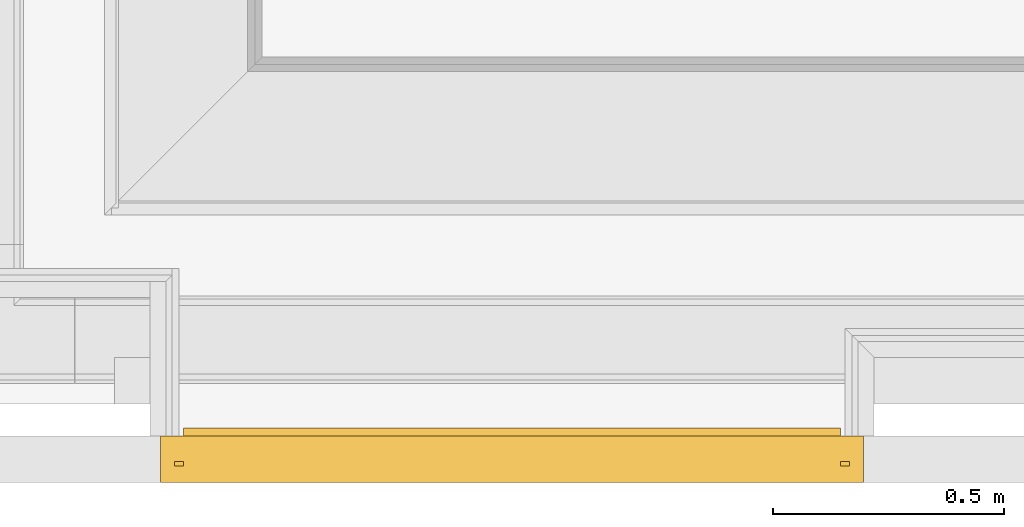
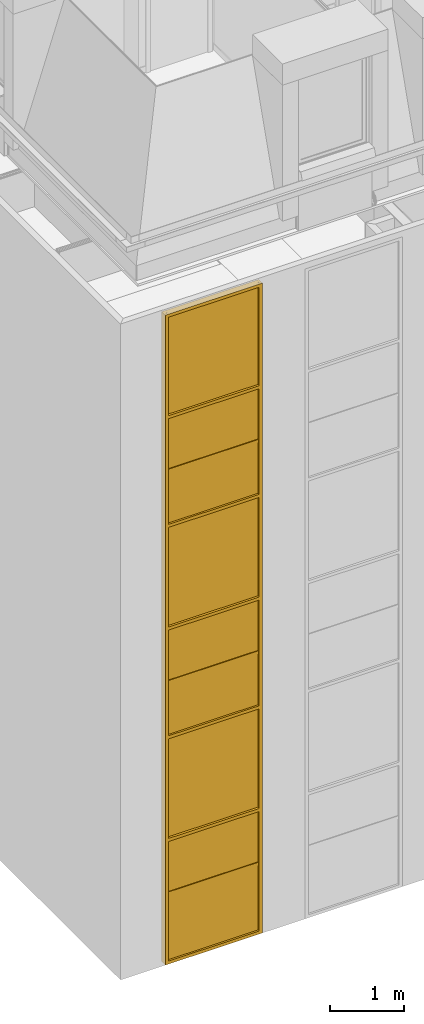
# One storey, part 91 of 169: 1 curtain wall.
"""IFC2X3 building model written with IfcOpenShell, lengths in metres."""

from ifc_helpers import new_model, entity, si_unit, converted_unit, derived_unit, money_unit, direction, frame, origin_with_axes, place, context, subcontext, project, spatial, faceted_brep, material, type_object, element, save


model = new_model("IFC2X3")

# Units and contexts
model_context = context("Model", 3, precision=1e-05, world=origin_with_axes(), true_north=direction((0.0, 1.0)))
body_context = subcontext(model_context, "Body", "Model", "MODEL_VIEW", scale=1.0)
ifc_project = project(units=[si_unit("LENGTHUNIT", "METRE"), si_unit("AREAUNIT", "SQUARE_METRE"), si_unit("VOLUMEUNIT", "CUBIC_METRE"), si_unit("ABSORBEDDOSEUNIT", "GRAY"), si_unit("AMOUNTOFSUBSTANCEUNIT", "MOLE"), si_unit("DOSEEQUIVALENTUNIT", "SIEVERT"), si_unit("ELECTRICCAPACITANCEUNIT", "FARAD"), si_unit("ELECTRICCHARGEUNIT", "COULOMB"), si_unit("ELECTRICCONDUCTANCEUNIT", "SIEMENS"), si_unit("ELECTRICCURRENTUNIT", "AMPERE"), si_unit("ELECTRICRESISTANCEUNIT", "OHM"), si_unit("ELECTRICVOLTAGEUNIT", "VOLT"), si_unit("ENERGYUNIT", "JOULE"), si_unit("FORCEUNIT", "NEWTON"), si_unit("FREQUENCYUNIT", "HERTZ"), si_unit("ILLUMINANCEUNIT", "LUX"), si_unit("INDUCTANCEUNIT", "HENRY"), si_unit("LUMINOUSFLUXUNIT", "LUMEN"), si_unit("LUMINOUSINTENSITYUNIT", "CANDELA"), si_unit("MAGNETICFLUXDENSITYUNIT", "TESLA"), si_unit("MAGNETICFLUXUNIT", "WEBER"), si_unit("MASSUNIT", "GRAM"), converted_unit("PLANEANGLEUNIT", "degree", entity("IfcReal", 0.0174532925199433), si_unit("PLANEANGLEUNIT", "RADIAN"), dimensions=[0, 0, 0, 0, 0, 0, 0]), si_unit("POWERUNIT", "WATT"), si_unit("PRESSUREUNIT", "PASCAL"), si_unit("RADIOACTIVITYUNIT", "BECQUEREL"), si_unit("SOLIDANGLEUNIT", "STERADIAN"), si_unit("THERMODYNAMICTEMPERATUREUNIT", "KELVIN"), si_unit("TIMEUNIT", "SECOND"), derived_unit("ACCELERATIONUNIT", [(si_unit("LENGTHUNIT", "METRE"), 1), (si_unit("TIMEUNIT", "SECOND"), -2)]), derived_unit("ANGULARVELOCITYUNIT", [(converted_unit("PLANEANGLEUNIT", "degree", entity("IfcReal", 0.0174532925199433), si_unit("PLANEANGLEUNIT", "RADIAN"), dimensions=[0, 0, 0, 0, 0, 0, 0]), 1), (si_unit("TIMEUNIT", "SECOND"), -1)]), derived_unit("CURVATUREUNIT", [(converted_unit("PLANEANGLEUNIT", "degree", entity("IfcReal", 0.0174532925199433), si_unit("PLANEANGLEUNIT", "RADIAN"), dimensions=[0, 0, 0, 0, 0, 0, 0]), 1), (si_unit("LENGTHUNIT", "METRE"), -1)]), derived_unit("DYNAMICVISCOSITYUNIT", [(si_unit("PRESSUREUNIT", "PASCAL"), 1), (si_unit("TIMEUNIT", "SECOND"), 1)]), derived_unit("HEATFLUXDENSITYUNIT", [(si_unit("POWERUNIT", "WATT"), 1), (si_unit("LENGTHUNIT", "METRE"), -2)]), derived_unit("HEATINGVALUEUNIT", [(si_unit("ENERGYUNIT", "JOULE"), 1), (si_unit("MASSUNIT", "GRAM"), -1)]), derived_unit("INTEGERCOUNTRATEUNIT", [(si_unit("TIMEUNIT", "SECOND"), -1)]), derived_unit("IONCONCENTRATIONUNIT", [(si_unit("MASSUNIT", "GRAM"), 1), (si_unit("VOLUMEUNIT", "CUBIC_METRE"), -1)]), derived_unit("ISOTHERMALMOISTURECAPACITYUNIT", [(si_unit("VOLUMEUNIT", "CUBIC_METRE"), 1), (si_unit("MASSUNIT", "GRAM"), -1)]), derived_unit("KINEMATICVISCOSITYUNIT", [(si_unit("AREAUNIT", "SQUARE_METRE"), 1), (si_unit("TIMEUNIT", "SECOND"), -1)]), derived_unit("LINEARFORCEUNIT", [(si_unit("FORCEUNIT", "NEWTON"), 1), (si_unit("LENGTHUNIT", "METRE"), -1)]), derived_unit("LINEARMOMENTUNIT", [(si_unit("FORCEUNIT", "NEWTON"), 1), (si_unit("LENGTHUNIT", "METRE"), -1)]), derived_unit("LINEARSTIFFNESSUNIT", [(si_unit("FORCEUNIT", "NEWTON"), 1), (si_unit("LENGTHUNIT", "METRE"), -1)]), derived_unit("LINEARVELOCITYUNIT", [(si_unit("LENGTHUNIT", "METRE"), 1), (si_unit("TIMEUNIT", "SECOND"), -1)]), derived_unit("LUMINOUSINTENSITYDISTRIBUTIONUNIT", [(si_unit("LUMINOUSINTENSITYUNIT", "CANDELA"), 1), (si_unit("LUMINOUSFLUXUNIT", "LUMEN"), -1)]), derived_unit("MASSDENSITYUNIT", [(si_unit("MASSUNIT", "GRAM"), 1), (si_unit("VOLUMEUNIT", "CUBIC_METRE"), -1)]), derived_unit("MASSFLOWRATEUNIT", [(si_unit("MASSUNIT", "GRAM"), 1), (si_unit("TIMEUNIT", "SECOND"), -1)]), derived_unit("MASSPERLENGTHUNIT", [(si_unit("MASSUNIT", "GRAM"), 1), (si_unit("LENGTHUNIT", "METRE"), -1)]), derived_unit("MODULUSOFELASTICITYUNIT", [(si_unit("FORCEUNIT", "NEWTON"), 1), (si_unit("AREAUNIT", "SQUARE_METRE"), -1)]), derived_unit("MODULUSOFLINEARSUBGRADEREACTIONUNIT", [(si_unit("FORCEUNIT", "NEWTON"), 1), (si_unit("LENGTHUNIT", "METRE"), -2)]), derived_unit("MODULUSOFROTATIONALSUBGRADEREACTIONUNIT", [(si_unit("FORCEUNIT", "NEWTON"), 1), (si_unit("LENGTHUNIT", "METRE"), 1)]), derived_unit("MODULUSOFSUBGRADEREACTIONUNIT", [(si_unit("FORCEUNIT", "NEWTON"), 1), (si_unit("VOLUMEUNIT", "CUBIC_METRE"), -1)]), derived_unit("MOISTUREDIFFUSIVITYUNIT", [(si_unit("VOLUMEUNIT", "CUBIC_METRE"), 1), (si_unit("TIMEUNIT", "SECOND"), -1)]), derived_unit("MOLECULARWEIGHTUNIT", [(si_unit("MASSUNIT", "GRAM"), 1), (si_unit("AMOUNTOFSUBSTANCEUNIT", "MOLE"), -1)]), derived_unit("PLANARFORCEUNIT", [(si_unit("FORCEUNIT", "NEWTON"), 1), (si_unit("LENGTHUNIT", "METRE"), -2)]), derived_unit("ROTATIONALFREQUENCYUNIT", [(si_unit("TIMEUNIT", "SECOND"), -1)]), derived_unit("ROTATIONALMASSUNIT", [(si_unit("MASSUNIT", "GRAM"), 1), (si_unit("LENGTHUNIT", "METRE"), 2)]), derived_unit("ROTATIONALSTIFFNESSUNIT", [(si_unit("FORCEUNIT", "NEWTON"), 1), (si_unit("LENGTHUNIT", "METRE"), 1), (converted_unit("PLANEANGLEUNIT", "degree", entity("IfcReal", 0.0174532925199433), si_unit("PLANEANGLEUNIT", "RADIAN"), dimensions=[0, 0, 0, 0, 0, 0, 0]), -1)]), derived_unit("SECTIONAREAINTEGRALUNIT", [(si_unit("LENGTHUNIT", "METRE"), 5)]), derived_unit("SECTIONMODULUSUNIT", [(si_unit("LENGTHUNIT", "METRE"), 3)]), derived_unit("SHEARMODULUSUNIT", [(si_unit("FORCEUNIT", "NEWTON"), 1), (si_unit("AREAUNIT", "SQUARE_METRE"), -1)]), derived_unit("SOUNDPOWERUNIT", [(si_unit("ENERGYUNIT", "JOULE"), 1), (si_unit("TIMEUNIT", "SECOND"), -1)]), derived_unit("SPECIFICHEATCAPACITYUNIT", [(si_unit("FORCEUNIT", "NEWTON"), 1), (si_unit("MASSUNIT", "GRAM"), -1), (si_unit("THERMODYNAMICTEMPERATUREUNIT", "KELVIN"), -1)]), derived_unit("TEMPERATUREGRADIENTUNIT", [(si_unit("THERMODYNAMICTEMPERATUREUNIT", "KELVIN"), 1), (si_unit("LENGTHUNIT", "METRE"), -1)]), derived_unit("THERMALADMITTANCEUNIT", [(si_unit("POWERUNIT", "WATT"), 1), (si_unit("AREAUNIT", "SQUARE_METRE"), -1), (si_unit("THERMODYNAMICTEMPERATUREUNIT", "KELVIN"), -1)]), derived_unit("THERMALCONDUCTANCEUNIT", [(si_unit("POWERUNIT", "WATT"), 1), (si_unit("LENGTHUNIT", "METRE"), -1), (si_unit("THERMODYNAMICTEMPERATUREUNIT", "KELVIN"), -1)]), derived_unit("THERMALEXPANSIONCOEFFICIENTUNIT", [(si_unit("THERMODYNAMICTEMPERATUREUNIT", "KELVIN"), -1)]), derived_unit("THERMALRESISTANCEUNIT", [(si_unit("AREAUNIT", "SQUARE_METRE"), 1), (si_unit("POWERUNIT", "WATT"), -1)]), derived_unit("THERMALTRANSMITTANCEUNIT", [(si_unit("POWERUNIT", "WATT"), 1), (si_unit("AREAUNIT", "SQUARE_METRE"), -1), (si_unit("THERMODYNAMICTEMPERATUREUNIT", "KELVIN"), -1)]), derived_unit("TORQUEUNIT", [(si_unit("FORCEUNIT", "NEWTON"), 1), (si_unit("LENGTHUNIT", "METRE"), 1)]), derived_unit("VAPORPERMEABILITYUNIT", [(si_unit("MASSUNIT", "GRAM"), 1), (si_unit("TIMEUNIT", "SECOND"), -1)]), derived_unit("VOLUMETRICFLOWRATEUNIT", [(si_unit("VOLUMEUNIT", "CUBIC_METRE"), 1), (si_unit("TIMEUNIT", "SECOND"), -1)]), derived_unit("WARPINGCONSTANTUNIT", [(si_unit("LENGTHUNIT", "METRE"), 6)]), derived_unit("WARPINGMOMENTUNIT", [(si_unit("FORCEUNIT", "NEWTON"), 1), (si_unit("LENGTHUNIT", "METRE"), 2)]), money_unit("GBP")], contexts=[model_context])

# Site, building, storey
site_placement = place(None, origin_with_axes())
site = spatial("IfcSite", under=ifc_project, at=site_placement, Name="Site", CompositionType="ELEMENT")
building_placement = place(site_placement, origin_with_axes())
building = spatial("IfcBuilding", under=site, at=building_placement, Name="Building01", CompositionType="ELEMENT")
storey_placement = place(building_placement, frame((0.0, 0.0, 5.15), z_axis=(0.0, 0.0, 1.0), x_axis=(1.0, 0.0, 0.0)))
storey = spatial("IfcBuildingStorey", under=building, at=storey_placement, Name="1F", CompositionType="ELEMENT", Elevation=5.15)

# Curtain wall
ifc_material = material(Name="A-CurtainWall_Frame")
curtain_wall_type = type_object("IfcCurtainWallType", Name="Pattern - Maximum Spacing", PredefinedType="NOTDEFINED")
curtain_wall_placement = place(storey_placement, frame((0.0, 0.0, -5.15), z_axis=(0.0, 0.0, 1.0), x_axis=(1.0, 0.0, 0.0)))
element("IfcCurtainWall", 1, at=curtain_wall_placement, inside=storey, type_object=curtain_wall_type, material=ifc_material, Name="16", ObjectType="Pattern - Maximum Spacing", context=body_context, shape_type="Brep", body=[
    faceted_brep([(0.73, 0.05, 4.0), (0.73, 0.03, 4.0), (0.73, 0.03, 5.118945), (0.73, 0.05, 5.118945), (2.19, 0.05, 4.0), (2.19, 0.03, 4.0), (2.19, 0.05, 5.118945), (2.19, 0.03, 5.118945)], [[[0, 1, 2, 3]], [[4, 5, 1, 0]], [[6, 7, 5, 4]], [[3, 2, 7, 6]], [[1, 5, 7, 2]], [[3, 6, 4, 0]]]),
    faceted_brep([(0.75, 0.045, 3.97), (0.73, 0.045, 3.97), (0.73, 0.035, 3.97), (0.75, 0.035, 3.97), (0.75, 0.0, 3.97), (0.7, 0.0, 3.97), (0.7, 0.1, 3.97), (0.75, 0.1, 3.97), (0.75, 0.1, 5.123945), (0.75, 0.045, 5.123945), (0.73, 0.045, 5.123945), (0.73, 0.035, 5.123945), (0.75, 0.035, 5.123945), (0.75, 0.0, 5.123945), (0.7, 0.0, 5.123945), (0.7, 0.1, 5.123945)], [[[0, 1, 2, 3, 4, 5, 6, 7]], [[7, 8, 9, 0]], [[0, 9, 10, 1]], [[1, 10, 11, 2]], [[2, 11, 12, 3]], [[3, 12, 13, 4]], [[4, 13, 14, 5]], [[5, 14, 15, 6]], [[6, 15, 8, 7]]]),
    faceted_brep([(2.17, 0.045, 4.0), (2.17, 0.035, 4.0), (2.17, 0.035, 4.02), (2.17, 0.0, 4.02), (2.17, 0.0, 3.97), (2.17, 0.1, 3.97), (2.17, 0.1, 4.02), (2.17, 0.045, 4.02), (0.75, 0.045, 4.02), (0.75, 0.045, 4.0), (0.75, 0.035, 4.0), (0.75, 0.035, 4.02), (0.75, 0.0, 4.02), (0.75, 0.0, 3.97), (0.75, 0.1, 3.97), (0.75, 0.1, 4.02)], [[[0, 1, 2, 3, 4, 5, 6, 7]], [[7, 8, 9, 0]], [[0, 9, 10, 1]], [[1, 10, 11, 2]], [[2, 11, 12, 3]], [[3, 12, 13, 4]], [[4, 13, 14, 5]], [[5, 14, 15, 6]], [[6, 15, 8, 7]], [[8, 15, 14, 13, 12, 11, 10, 9]]]),
    faceted_brep([(2.17, 0.045, 3.97), (2.17, 0.045, 5.123945), (2.17, 0.1, 5.123945), (2.17, 0.1, 3.97), (2.19, 0.045, 3.97), (2.19, 0.045, 5.123945), (2.19, 0.035, 3.97), (2.19, 0.035, 5.123945), (2.17, 0.035, 3.97), (2.17, 0.035, 5.123945), (2.17, 0.0, 3.97), (2.17, 0.0, 5.123945), (2.22, 0.0, 3.97), (2.22, 0.0, 5.123945), (2.22, 0.1, 3.97), (2.22, 0.1, 5.123945)], [[[0, 1, 2, 3]], [[4, 5, 1, 0]], [[6, 7, 5, 4]], [[8, 9, 7, 6]], [[10, 11, 9, 8]], [[12, 13, 11, 10]], [[14, 15, 13, 12]], [[3, 2, 15, 14]], [[14, 12, 10, 8, 6, 4, 0, 3]]]),
    faceted_brep([(0.75, 0.0625, 5.118945), (0.75, 0.0525, 5.118945), (0.75, 0.0525, 5.098945), (0.75, 0.0175, 5.098945), (0.75, 0.0175, 5.148945), (0.75, 0.0525, 5.148945), (0.75, 0.0525, 5.128945), (0.75, 0.0625, 5.128945), (0.75, 0.0625, 5.148945), (0.75, 0.1175, 5.148945), (0.75, 0.1175, 5.098945), (0.75, 0.0625, 5.098945), (2.17, 0.0625, 5.098945), (2.17, 0.0625, 5.118945), (2.17, 0.0525, 5.118945), (2.17, 0.0525, 5.098945), (2.17, 0.0175, 5.098945), (2.17, 0.0175, 5.148945), (2.17, 0.0525, 5.148945), (2.17, 0.0625, 5.128945), (2.17, 0.0625, 5.148945), (2.17, 0.0525, 5.128945), (2.17, 0.1175, 5.098945), (2.17, 0.1175, 5.148945)], [[[0, 1, 2, 3, 4, 5, 6, 7, 8, 9, 10, 11]], [[11, 12, 13, 0]], [[0, 13, 14, 1]], [[1, 14, 15, 2]], [[2, 15, 16, 3]], [[3, 16, 17, 4]], [[4, 17, 18, 5]], [[7, 19, 20, 8]], [[6, 21, 19, 7]], [[5, 18, 21, 6]], [[10, 22, 12, 11]], [[9, 23, 22, 10]], [[8, 20, 23, 9]], [[20, 19, 21, 18, 17, 16, 15, 14, 13, 12, 22, 23]]]),
    faceted_brep([(0.73, 0.05, 5.128945), (0.73, 0.03, 5.128945), (0.73, 0.03, 6.018105), (0.73, 0.05, 6.018105), (2.19, 0.05, 5.128945), (2.19, 0.03, 5.128945), (2.19, 0.05, 6.018105), (2.19, 0.03, 6.018105)], [[[0, 1, 2, 3]], [[4, 5, 1, 0]], [[6, 7, 5, 4]], [[3, 2, 7, 6]], [[1, 5, 7, 2]], [[3, 6, 4, 0]]]),
    faceted_brep([(0.7, 0.1, 6.023105), (0.7, 0.1, 5.123945), (0.7, 0.0, 5.123945), (0.7, 0.0, 6.023105), (0.75, 0.1, 6.023105), (0.75, 0.1, 5.123945), (0.75, 0.045, 6.023105), (0.75, 0.045, 5.123945), (0.73, 0.045, 6.023105), (0.73, 0.045, 5.123945), (0.73, 0.035, 6.023105), (0.73, 0.035, 5.123945), (0.75, 0.035, 6.023105), (0.75, 0.035, 5.123945), (0.75, 0.0, 6.023105), (0.75, 0.0, 5.123945)], [[[0, 1, 2, 3]], [[4, 5, 1, 0]], [[6, 7, 5, 4]], [[8, 9, 7, 6]], [[10, 11, 9, 8]], [[12, 13, 11, 10]], [[14, 15, 13, 12]], [[3, 2, 15, 14]]]),
    faceted_brep([(2.17, 0.045, 5.123945), (2.17, 0.045, 6.023105), (2.17, 0.1, 6.023105), (2.17, 0.1, 5.123945), (2.19, 0.045, 5.123945), (2.19, 0.045, 6.023105), (2.19, 0.035, 5.123945), (2.19, 0.035, 6.023105), (2.17, 0.035, 5.123945), (2.17, 0.035, 6.023105), (2.17, 0.0, 5.123945), (2.17, 0.0, 6.023105), (2.22, 0.0, 5.123945), (2.22, 0.0, 6.023105), (2.22, 0.1, 5.123945), (2.22, 0.1, 6.023105)], [[[0, 1, 2, 3]], [[4, 5, 1, 0]], [[6, 7, 5, 4]], [[8, 9, 7, 6]], [[10, 11, 9, 8]], [[12, 13, 11, 10]], [[14, 15, 13, 12]], [[3, 2, 15, 14]]]),
    faceted_brep([(0.75, 0.045, 6.018105), (0.75, 0.035, 6.018105), (0.75, 0.035, 5.998105), (0.75, 0.0, 5.998105), (0.75, 0.0, 6.048105), (0.75, 0.035, 6.048105), (0.75, 0.035, 6.028105), (0.75, 0.045, 6.028105), (0.75, 0.045, 6.048105), (0.75, 0.1, 6.048105), (0.75, 0.1, 5.998105), (0.75, 0.045, 5.998105), (2.17, 0.045, 5.998105), (2.17, 0.045, 6.018105), (2.17, 0.035, 6.018105), (2.17, 0.035, 5.998105), (2.17, 0.0, 5.998105), (2.17, 0.0, 6.048105), (2.17, 0.035, 6.048105), (2.17, 0.045, 6.028105), (2.17, 0.045, 6.048105), (2.17, 0.035, 6.028105), (2.17, 0.1, 5.998105), (2.17, 0.1, 6.048105)], [[[0, 1, 2, 3, 4, 5, 6, 7, 8, 9, 10, 11]], [[11, 12, 13, 0]], [[0, 13, 14, 1]], [[1, 14, 15, 2]], [[2, 15, 16, 3]], [[3, 16, 17, 4]], [[4, 17, 18, 5]], [[7, 19, 20, 8]], [[6, 21, 19, 7]], [[5, 18, 21, 6]], [[10, 22, 12, 11]], [[9, 23, 22, 10]], [[8, 20, 23, 9]], [[20, 19, 21, 18, 17, 16, 15, 14, 13, 12, 22, 23]]]),
    faceted_brep([(0.73, 0.045, 6.028105), (0.73, 0.035, 6.028105), (0.73, 0.035, 7.716517), (0.73, 0.045, 7.716517), (2.19, 0.045, 6.028105), (2.19, 0.035, 6.028105), (2.19, 0.045, 7.716517), (2.19, 0.035, 7.716517)], [[[0, 1, 2, 3]], [[4, 5, 1, 0]], [[6, 7, 5, 4]], [[3, 2, 7, 6]], [[1, 5, 7, 2]], [[3, 6, 4, 0]]]),
    faceted_brep([(0.7, 0.1, 7.721517), (0.7, 0.1, 6.023105), (0.7, 0.0, 6.023105), (0.7, 0.0, 7.721517), (0.75, 0.1, 7.721517), (0.75, 0.1, 6.023105), (0.75, 0.045, 7.721517), (0.75, 0.045, 6.023105), (0.73, 0.045, 7.721517), (0.73, 0.045, 6.023105), (0.73, 0.035, 7.721517), (0.73, 0.035, 6.023105), (0.75, 0.035, 7.721517), (0.75, 0.035, 6.023105), (0.75, 0.0, 7.721517), (0.75, 0.0, 6.023105)], [[[0, 1, 2, 3]], [[4, 5, 1, 0]], [[6, 7, 5, 4]], [[8, 9, 7, 6]], [[10, 11, 9, 8]], [[12, 13, 11, 10]], [[14, 15, 13, 12]], [[3, 2, 15, 14]]]),
    faceted_brep([(2.17, 0.045, 6.023105), (2.17, 0.045, 7.721517), (2.17, 0.1, 7.721517), (2.17, 0.1, 6.023105), (2.19, 0.045, 6.023105), (2.19, 0.045, 7.721517), (2.19, 0.035, 6.023105), (2.19, 0.035, 7.721517), (2.17, 0.035, 6.023105), (2.17, 0.035, 7.721517), (2.17, 0.0, 6.023105), (2.17, 0.0, 7.721517), (2.22, 0.0, 6.023105), (2.22, 0.0, 7.721517), (2.22, 0.1, 6.023105), (2.22, 0.1, 7.721517)], [[[0, 1, 2, 3]], [[4, 5, 1, 0]], [[6, 7, 5, 4]], [[8, 9, 7, 6]], [[10, 11, 9, 8]], [[12, 13, 11, 10]], [[14, 15, 13, 12]], [[3, 2, 15, 14]]]),
    faceted_brep([(0.75, 0.045, 7.716517), (0.75, 0.035, 7.716517), (0.75, 0.035, 7.696517), (0.75, 0.0, 7.696517), (0.75, 0.0, 7.746517), (0.75, 0.035, 7.746517), (0.75, 0.035, 7.726517), (0.75, 0.045, 7.726517), (0.75, 0.045, 7.746517), (0.75, 0.1, 7.746517), (0.75, 0.1, 7.696517), (0.75, 0.045, 7.696517), (2.17, 0.045, 7.696517), (2.17, 0.045, 7.716517), (2.17, 0.035, 7.716517), (2.17, 0.035, 7.696517), (2.17, 0.0, 7.696517), (2.17, 0.0, 7.746517), (2.17, 0.035, 7.746517), (2.17, 0.045, 7.726517), (2.17, 0.045, 7.746517), (2.17, 0.035, 7.726517), (2.17, 0.1, 7.696517), (2.17, 0.1, 7.746517)], [[[0, 1, 2, 3, 4, 5, 6, 7, 8, 9, 10, 11]], [[11, 12, 13, 0]], [[0, 13, 14, 1]], [[1, 14, 15, 2]], [[2, 15, 16, 3]], [[3, 16, 17, 4]], [[4, 17, 18, 5]], [[7, 19, 20, 8]], [[6, 21, 19, 7]], [[5, 18, 21, 6]], [[10, 22, 12, 11]], [[9, 23, 22, 10]], [[8, 20, 23, 9]], [[20, 19, 21, 18, 17, 16, 15, 14, 13, 12, 22, 23]]]),
    faceted_brep([(0.73, 0.05, 7.726517), (0.73, 0.03, 7.726517), (0.73, 0.03, 8.615677), (0.73, 0.05, 8.615677), (2.19, 0.05, 7.726517), (2.19, 0.03, 7.726517), (2.19, 0.05, 8.615677), (2.19, 0.03, 8.615677)], [[[0, 1, 2, 3]], [[4, 5, 1, 0]], [[6, 7, 5, 4]], [[3, 2, 7, 6]], [[1, 5, 7, 2]], [[3, 6, 4, 0]]]),
    faceted_brep([(0.7, 0.1, 8.620677), (0.7, 0.1, 7.721517), (0.7, 0.0, 7.721517), (0.7, 0.0, 8.620677), (0.75, 0.1, 8.620677), (0.75, 0.1, 7.721517), (0.75, 0.045, 8.620677), (0.75, 0.045, 7.721517), (0.73, 0.045, 8.620677), (0.73, 0.045, 7.721517), (0.73, 0.035, 8.620677), (0.73, 0.035, 7.721517), (0.75, 0.035, 8.620677), (0.75, 0.035, 7.721517), (0.75, 0.0, 8.620677), (0.75, 0.0, 7.721517)], [[[0, 1, 2, 3]], [[4, 5, 1, 0]], [[6, 7, 5, 4]], [[8, 9, 7, 6]], [[10, 11, 9, 8]], [[12, 13, 11, 10]], [[14, 15, 13, 12]], [[3, 2, 15, 14]]]),
    faceted_brep([(2.17, 0.045, 7.721517), (2.17, 0.045, 8.620677), (2.17, 0.1, 8.620677), (2.17, 0.1, 7.721517), (2.19, 0.045, 7.721517), (2.19, 0.045, 8.620677), (2.19, 0.035, 7.721517), (2.19, 0.035, 8.620677), (2.17, 0.035, 7.721517), (2.17, 0.035, 8.620677), (2.17, 0.0, 7.721517), (2.17, 0.0, 8.620677), (2.22, 0.0, 7.721517), (2.22, 0.0, 8.620677), (2.22, 0.1, 7.721517), (2.22, 0.1, 8.620677)], [[[0, 1, 2, 3]], [[4, 5, 1, 0]], [[6, 7, 5, 4]], [[8, 9, 7, 6]], [[10, 11, 9, 8]], [[12, 13, 11, 10]], [[14, 15, 13, 12]], [[3, 2, 15, 14]]]),
    faceted_brep([(0.75, 0.0625, 8.615677), (0.75, 0.0525, 8.615677), (0.75, 0.0525, 8.595677), (0.75, 0.0175, 8.595677), (0.75, 0.0175, 8.645677), (0.75, 0.0525, 8.645677), (0.75, 0.0525, 8.625677), (0.75, 0.0625, 8.625677), (0.75, 0.0625, 8.645677), (0.75, 0.1175, 8.645677), (0.75, 0.1175, 8.595677), (0.75, 0.0625, 8.595677), (2.17, 0.0625, 8.595677), (2.17, 0.0625, 8.615677), (2.17, 0.0525, 8.615677), (2.17, 0.0525, 8.595677), (2.17, 0.0175, 8.595677), (2.17, 0.0175, 8.645677), (2.17, 0.0525, 8.645677), (2.17, 0.0625, 8.625677), (2.17, 0.0625, 8.645677), (2.17, 0.0525, 8.625677), (2.17, 0.1175, 8.595677), (2.17, 0.1175, 8.645677)], [[[0, 1, 2, 3, 4, 5, 6, 7, 8, 9, 10, 11]], [[11, 12, 13, 0]], [[0, 13, 14, 1]], [[1, 14, 15, 2]], [[2, 15, 16, 3]], [[3, 16, 17, 4]], [[4, 17, 18, 5]], [[7, 19, 20, 8]], [[6, 21, 19, 7]], [[5, 18, 21, 6]], [[10, 22, 12, 11]], [[9, 23, 22, 10]], [[8, 20, 23, 9]], [[20, 19, 21, 18, 17, 16, 15, 14, 13, 12, 22, 23]]]),
    faceted_brep([(0.73, 0.05, 8.625677), (0.73, 0.03, 8.625677), (0.73, 0.03, 9.514837), (0.73, 0.05, 9.514837), (2.19, 0.05, 8.625677), (2.19, 0.03, 8.625677), (2.19, 0.05, 9.514837), (2.19, 0.03, 9.514837)], [[[0, 1, 2, 3]], [[4, 5, 1, 0]], [[6, 7, 5, 4]], [[3, 2, 7, 6]], [[1, 5, 7, 2]], [[3, 6, 4, 0]]]),
    faceted_brep([(0.7, 0.1, 9.519837), (0.7, 0.1, 8.620677), (0.7, 0.0, 8.620677), (0.7, 0.0, 9.519837), (0.75, 0.1, 9.519837), (0.75, 0.1, 8.620677), (0.75, 0.045, 9.519837), (0.75, 0.045, 8.620677), (0.73, 0.045, 9.519837), (0.73, 0.045, 8.620677), (0.73, 0.035, 9.519837), (0.73, 0.035, 8.620677), (0.75, 0.035, 9.519837), (0.75, 0.035, 8.620677), (0.75, 0.0, 9.519837), (0.75, 0.0, 8.620677)], [[[0, 1, 2, 3]], [[4, 5, 1, 0]], [[6, 7, 5, 4]], [[8, 9, 7, 6]], [[10, 11, 9, 8]], [[12, 13, 11, 10]], [[14, 15, 13, 12]], [[3, 2, 15, 14]]]),
    faceted_brep([(2.17, 0.045, 8.620677), (2.17, 0.045, 9.519837), (2.17, 0.1, 9.519837), (2.17, 0.1, 8.620677), (2.19, 0.045, 8.620677), (2.19, 0.045, 9.519837), (2.19, 0.035, 8.620677), (2.19, 0.035, 9.519837), (2.17, 0.035, 8.620677), (2.17, 0.035, 9.519837), (2.17, 0.0, 8.620677), (2.17, 0.0, 9.519837), (2.22, 0.0, 8.620677), (2.22, 0.0, 9.519837), (2.22, 0.1, 8.620677), (2.22, 0.1, 9.519837)], [[[0, 1, 2, 3]], [[4, 5, 1, 0]], [[6, 7, 5, 4]], [[8, 9, 7, 6]], [[10, 11, 9, 8]], [[12, 13, 11, 10]], [[14, 15, 13, 12]], [[3, 2, 15, 14]]]),
    faceted_brep([(0.75, 0.045, 9.514837), (0.75, 0.035, 9.514837), (0.75, 0.035, 9.494837), (0.75, 0.0, 9.494837), (0.75, 0.0, 9.544837), (0.75, 0.035, 9.544837), (0.75, 0.035, 9.524837), (0.75, 0.045, 9.524837), (0.75, 0.045, 9.544837), (0.75, 0.1, 9.544837), (0.75, 0.1, 9.494837), (0.75, 0.045, 9.494837), (2.17, 0.045, 9.494837), (2.17, 0.045, 9.514837), (2.17, 0.035, 9.514837), (2.17, 0.035, 9.494837), (2.17, 0.0, 9.494837), (2.17, 0.0, 9.544837), (2.17, 0.035, 9.544837), (2.17, 0.045, 9.524837), (2.17, 0.045, 9.544837), (2.17, 0.035, 9.524837), (2.17, 0.1, 9.494837), (2.17, 0.1, 9.544837)], [[[0, 1, 2, 3, 4, 5, 6, 7, 8, 9, 10, 11]], [[11, 12, 13, 0]], [[0, 13, 14, 1]], [[1, 14, 15, 2]], [[2, 15, 16, 3]], [[3, 16, 17, 4]], [[4, 17, 18, 5]], [[7, 19, 20, 8]], [[6, 21, 19, 7]], [[5, 18, 21, 6]], [[10, 22, 12, 11]], [[9, 23, 22, 10]], [[8, 20, 23, 9]], [[20, 19, 21, 18, 17, 16, 15, 14, 13, 12, 22, 23]]]),
    faceted_brep([(0.73, 0.045, 9.524837), (0.73, 0.035, 9.524837), (0.73, 0.035, 11.213249), (0.73, 0.045, 11.213249), (2.19, 0.045, 9.524837), (2.19, 0.035, 9.524837), (2.19, 0.045, 11.213249), (2.19, 0.035, 11.213249)], [[[0, 1, 2, 3]], [[4, 5, 1, 0]], [[6, 7, 5, 4]], [[3, 2, 7, 6]], [[1, 5, 7, 2]], [[3, 6, 4, 0]]]),
    faceted_brep([(0.7, 0.1, 11.218249), (0.7, 0.1, 9.519837), (0.7, 0.0, 9.519837), (0.7, 0.0, 11.218249), (0.75, 0.1, 11.218249), (0.75, 0.1, 9.519837), (0.75, 0.045, 11.218249), (0.75, 0.045, 9.519837), (0.73, 0.045, 11.218249), (0.73, 0.045, 9.519837), (0.73, 0.035, 11.218249), (0.73, 0.035, 9.519837), (0.75, 0.035, 11.218249), (0.75, 0.035, 9.519837), (0.75, 0.0, 11.218249), (0.75, 0.0, 9.519837)], [[[0, 1, 2, 3]], [[4, 5, 1, 0]], [[6, 7, 5, 4]], [[8, 9, 7, 6]], [[10, 11, 9, 8]], [[12, 13, 11, 10]], [[14, 15, 13, 12]], [[3, 2, 15, 14]]]),
    faceted_brep([(2.17, 0.045, 9.519837), (2.17, 0.045, 11.218249), (2.17, 0.1, 11.218249), (2.17, 0.1, 9.519837), (2.19, 0.045, 9.519837), (2.19, 0.045, 11.218249), (2.19, 0.035, 9.519837), (2.19, 0.035, 11.218249), (2.17, 0.035, 9.519837), (2.17, 0.035, 11.218249), (2.17, 0.0, 9.519837), (2.17, 0.0, 11.218249), (2.22, 0.0, 9.519837), (2.22, 0.0, 11.218249), (2.22, 0.1, 9.519837), (2.22, 0.1, 11.218249)], [[[0, 1, 2, 3]], [[4, 5, 1, 0]], [[6, 7, 5, 4]], [[8, 9, 7, 6]], [[10, 11, 9, 8]], [[12, 13, 11, 10]], [[14, 15, 13, 12]], [[3, 2, 15, 14]]]),
    faceted_brep([(0.75, 0.045, 11.213249), (0.75, 0.035, 11.213249), (0.75, 0.035, 11.193249), (0.75, 0.0, 11.193249), (0.75, 0.0, 11.243249), (0.75, 0.035, 11.243249), (0.75, 0.035, 11.223249), (0.75, 0.045, 11.223249), (0.75, 0.045, 11.243249), (0.75, 0.1, 11.243249), (0.75, 0.1, 11.193249), (0.75, 0.045, 11.193249), (2.17, 0.045, 11.193249), (2.17, 0.045, 11.213249), (2.17, 0.035, 11.213249), (2.17, 0.035, 11.193249), (2.17, 0.0, 11.193249), (2.17, 0.0, 11.243249), (2.17, 0.035, 11.243249), (2.17, 0.045, 11.223249), (2.17, 0.045, 11.243249), (2.17, 0.035, 11.223249), (2.17, 0.1, 11.193249), (2.17, 0.1, 11.243249)], [[[0, 1, 2, 3, 4, 5, 6, 7, 8, 9, 10, 11]], [[11, 12, 13, 0]], [[0, 13, 14, 1]], [[1, 14, 15, 2]], [[2, 15, 16, 3]], [[3, 16, 17, 4]], [[4, 17, 18, 5]], [[7, 19, 20, 8]], [[6, 21, 19, 7]], [[5, 18, 21, 6]], [[10, 22, 12, 11]], [[9, 23, 22, 10]], [[8, 20, 23, 9]], [[20, 19, 21, 18, 17, 16, 15, 14, 13, 12, 22, 23]]]),
    faceted_brep([(0.73, 0.05, 11.223249), (0.73, 0.03, 11.223249), (0.73, 0.03, 12.112409), (0.73, 0.05, 12.112409), (2.19, 0.05, 11.223249), (2.19, 0.03, 11.223249), (2.19, 0.05, 12.112409), (2.19, 0.03, 12.112409)], [[[0, 1, 2, 3]], [[4, 5, 1, 0]], [[6, 7, 5, 4]], [[3, 2, 7, 6]], [[1, 5, 7, 2]], [[3, 6, 4, 0]]]),
    faceted_brep([(0.7, 0.1, 12.117409), (0.7, 0.1, 11.218249), (0.7, 0.0, 11.218249), (0.7, 0.0, 12.117409), (0.75, 0.1, 12.117409), (0.75, 0.1, 11.218249), (0.75, 0.045, 12.117409), (0.75, 0.045, 11.218249), (0.73, 0.045, 12.117409), (0.73, 0.045, 11.218249), (0.73, 0.035, 12.117409), (0.73, 0.035, 11.218249), (0.75, 0.035, 12.117409), (0.75, 0.035, 11.218249), (0.75, 0.0, 12.117409), (0.75, 0.0, 11.218249)], [[[0, 1, 2, 3]], [[4, 5, 1, 0]], [[6, 7, 5, 4]], [[8, 9, 7, 6]], [[10, 11, 9, 8]], [[12, 13, 11, 10]], [[14, 15, 13, 12]], [[3, 2, 15, 14]]]),
    faceted_brep([(2.17, 0.045, 11.218249), (2.17, 0.045, 12.117409), (2.17, 0.1, 12.117409), (2.17, 0.1, 11.218249), (2.19, 0.045, 11.218249), (2.19, 0.045, 12.117409), (2.19, 0.035, 11.218249), (2.19, 0.035, 12.117409), (2.17, 0.035, 11.218249), (2.17, 0.035, 12.117409), (2.17, 0.0, 11.218249), (2.17, 0.0, 12.117409), (2.22, 0.0, 11.218249), (2.22, 0.0, 12.117409), (2.22, 0.1, 11.218249), (2.22, 0.1, 12.117409)], [[[0, 1, 2, 3]], [[4, 5, 1, 0]], [[6, 7, 5, 4]], [[8, 9, 7, 6]], [[10, 11, 9, 8]], [[12, 13, 11, 10]], [[14, 15, 13, 12]], [[3, 2, 15, 14]]]),
    faceted_brep([(0.75, 0.0625, 12.112409), (0.75, 0.0525, 12.112409), (0.75, 0.0525, 12.092409), (0.75, 0.0175, 12.092409), (0.75, 0.0175, 12.142409), (0.75, 0.0525, 12.142409), (0.75, 0.0525, 12.122409), (0.75, 0.0625, 12.122409), (0.75, 0.0625, 12.142409), (0.75, 0.1175, 12.142409), (0.75, 0.1175, 12.092409), (0.75, 0.0625, 12.092409), (2.17, 0.0625, 12.092409), (2.17, 0.0625, 12.112409), (2.17, 0.0525, 12.112409), (2.17, 0.0525, 12.092409), (2.17, 0.0175, 12.092409), (2.17, 0.0175, 12.142409), (2.17, 0.0525, 12.142409), (2.17, 0.0625, 12.122409), (2.17, 0.0625, 12.142409), (2.17, 0.0525, 12.122409), (2.17, 0.1175, 12.092409), (2.17, 0.1175, 12.142409)], [[[0, 1, 2, 3, 4, 5, 6, 7, 8, 9, 10, 11]], [[11, 12, 13, 0]], [[0, 13, 14, 1]], [[1, 14, 15, 2]], [[2, 15, 16, 3]], [[3, 16, 17, 4]], [[4, 17, 18, 5]], [[7, 19, 20, 8]], [[6, 21, 19, 7]], [[5, 18, 21, 6]], [[10, 22, 12, 11]], [[9, 23, 22, 10]], [[8, 20, 23, 9]], [[20, 19, 21, 18, 17, 16, 15, 14, 13, 12, 22, 23]]]),
    faceted_brep([(2.19, 0.045, 14.69), (2.19, 0.035, 14.69), (2.19, 0.035, 13.021569), (2.19, 0.045, 13.021569), (0.73, 0.045, 14.69), (0.73, 0.035, 14.69), (0.73, 0.045, 13.021569), (0.73, 0.035, 13.021569)], [[[0, 1, 2, 3]], [[4, 5, 1, 0]], [[6, 7, 5, 4]], [[3, 2, 7, 6]], [[1, 5, 7, 2]], [[3, 6, 4, 0]]]),
    faceted_brep([(2.17, 0.045, 14.72), (2.19, 0.045, 14.72), (2.19, 0.035, 14.72), (2.17, 0.035, 14.72), (2.17, 0.0, 14.72), (2.22, 0.0, 14.72), (2.22, 0.1, 14.72), (2.17, 0.1, 14.72), (2.17, 0.1, 13.016569), (2.17, 0.045, 13.016569), (2.19, 0.045, 13.016569), (2.19, 0.035, 13.016569), (2.17, 0.035, 13.016569), (2.17, 0.0, 13.016569), (2.22, 0.0, 13.016569), (2.22, 0.1, 13.016569)], [[[0, 1, 2, 3, 4, 5, 6, 7]], [[7, 8, 9, 0]], [[0, 9, 10, 1]], [[1, 10, 11, 2]], [[2, 11, 12, 3]], [[3, 12, 13, 4]], [[4, 13, 14, 5]], [[5, 14, 15, 6]], [[6, 15, 8, 7]]]),
    faceted_brep([(0.75, 0.1, 14.67), (0.75, 0.045, 14.67), (0.75, 0.045, 14.69), (0.75, 0.035, 14.69), (0.75, 0.035, 14.67), (0.75, 0.0, 14.67), (0.75, 0.0, 14.72), (0.75, 0.1, 14.72), (2.17, 0.1, 14.72), (2.17, 0.1, 14.67), (2.17, 0.045, 14.67), (2.17, 0.045, 14.69), (2.17, 0.035, 14.69), (2.17, 0.035, 14.67), (2.17, 0.0, 14.67), (2.17, 0.0, 14.72)], [[[0, 1, 2, 3, 4, 5, 6, 7]], [[7, 8, 9, 0]], [[0, 9, 10, 1]], [[1, 10, 11, 2]], [[2, 11, 12, 3]], [[3, 12, 13, 4]], [[4, 13, 14, 5]], [[5, 14, 15, 6]], [[6, 15, 8, 7]], [[8, 15, 14, 13, 12, 11, 10, 9]]]),
    faceted_brep([(0.75, 0.045, 14.72), (0.75, 0.045, 13.016569), (0.75, 0.1, 13.016569), (0.75, 0.1, 14.72), (0.73, 0.045, 14.72), (0.73, 0.045, 13.016569), (0.73, 0.035, 14.72), (0.73, 0.035, 13.016569), (0.75, 0.035, 14.72), (0.75, 0.035, 13.016569), (0.75, 0.0, 14.72), (0.75, 0.0, 13.016569), (0.7, 0.0, 14.72), (0.7, 0.0, 13.016569), (0.7, 0.1, 14.72), (0.7, 0.1, 13.016569)], [[[0, 1, 2, 3]], [[4, 5, 1, 0]], [[6, 7, 5, 4]], [[8, 9, 7, 6]], [[10, 11, 9, 8]], [[12, 13, 11, 10]], [[14, 15, 13, 12]], [[3, 2, 15, 14]], [[14, 12, 10, 8, 6, 4, 0, 3]]]),
    faceted_brep([(2.17, 0.035, 13.011569), (2.17, 0.045, 13.011569), (2.17, 0.045, 12.991569), (2.17, 0.1, 12.991569), (2.17, 0.1, 13.041569), (2.17, 0.045, 13.041569), (2.17, 0.045, 13.021569), (2.17, 0.035, 13.021569), (2.17, 0.035, 13.041569), (2.17, 0.0, 13.041569), (2.17, 0.0, 12.991569), (2.17, 0.035, 12.991569), (0.75, 0.035, 12.991569), (0.75, 0.035, 13.011569), (0.75, 0.045, 13.011569), (0.75, 0.045, 12.991569), (0.75, 0.1, 12.991569), (0.75, 0.1, 13.041569), (0.75, 0.045, 13.041569), (0.75, 0.035, 13.021569), (0.75, 0.035, 13.041569), (0.75, 0.045, 13.021569), (0.75, 0.0, 12.991569), (0.75, 0.0, 13.041569)], [[[0, 1, 2, 3, 4, 5, 6, 7, 8, 9, 10, 11]], [[11, 12, 13, 0]], [[0, 13, 14, 1]], [[1, 14, 15, 2]], [[2, 15, 16, 3]], [[3, 16, 17, 4]], [[4, 17, 18, 5]], [[7, 19, 20, 8]], [[6, 21, 19, 7]], [[5, 18, 21, 6]], [[10, 22, 12, 11]], [[9, 23, 22, 10]], [[8, 20, 23, 9]], [[20, 19, 21, 18, 17, 16, 15, 14, 13, 12, 22, 23]]]),
    faceted_brep([(0.73, 0.05, 12.122409), (0.73, 0.03, 12.122409), (0.73, 0.03, 13.011569), (0.73, 0.05, 13.011569), (2.19, 0.05, 12.122409), (2.19, 0.03, 12.122409), (2.19, 0.05, 13.011569), (2.19, 0.03, 13.011569)], [[[0, 1, 2, 3]], [[4, 5, 1, 0]], [[6, 7, 5, 4]], [[3, 2, 7, 6]], [[1, 5, 7, 2]], [[3, 6, 4, 0]]]),
    faceted_brep([(0.7, 0.1, 13.016569), (0.7, 0.1, 12.117409), (0.7, 0.0, 12.117409), (0.7, 0.0, 13.016569), (0.75, 0.1, 13.016569), (0.75, 0.1, 12.117409), (0.75, 0.045, 13.016569), (0.75, 0.045, 12.117409), (0.73, 0.045, 13.016569), (0.73, 0.045, 12.117409), (0.73, 0.035, 13.016569), (0.73, 0.035, 12.117409), (0.75, 0.035, 13.016569), (0.75, 0.035, 12.117409), (0.75, 0.0, 13.016569), (0.75, 0.0, 12.117409)], [[[0, 1, 2, 3]], [[4, 5, 1, 0]], [[6, 7, 5, 4]], [[8, 9, 7, 6]], [[10, 11, 9, 8]], [[12, 13, 11, 10]], [[14, 15, 13, 12]], [[3, 2, 15, 14]]]),
    faceted_brep([(2.17, 0.045, 12.117409), (2.17, 0.045, 13.016569), (2.17, 0.1, 13.016569), (2.17, 0.1, 12.117409), (2.19, 0.045, 12.117409), (2.19, 0.045, 13.016569), (2.19, 0.035, 12.117409), (2.19, 0.035, 13.016569), (2.17, 0.035, 12.117409), (2.17, 0.035, 13.016569), (2.17, 0.0, 12.117409), (2.17, 0.0, 13.016569), (2.22, 0.0, 12.117409), (2.22, 0.0, 13.016569), (2.22, 0.1, 12.117409), (2.22, 0.1, 13.016569)], [[[0, 1, 2, 3]], [[4, 5, 1, 0]], [[6, 7, 5, 4]], [[8, 9, 7, 6]], [[10, 11, 9, 8]], [[12, 13, 11, 10]], [[14, 15, 13, 12]], [[3, 2, 15, 14]]]),
])

save(model, "model.ifc")
